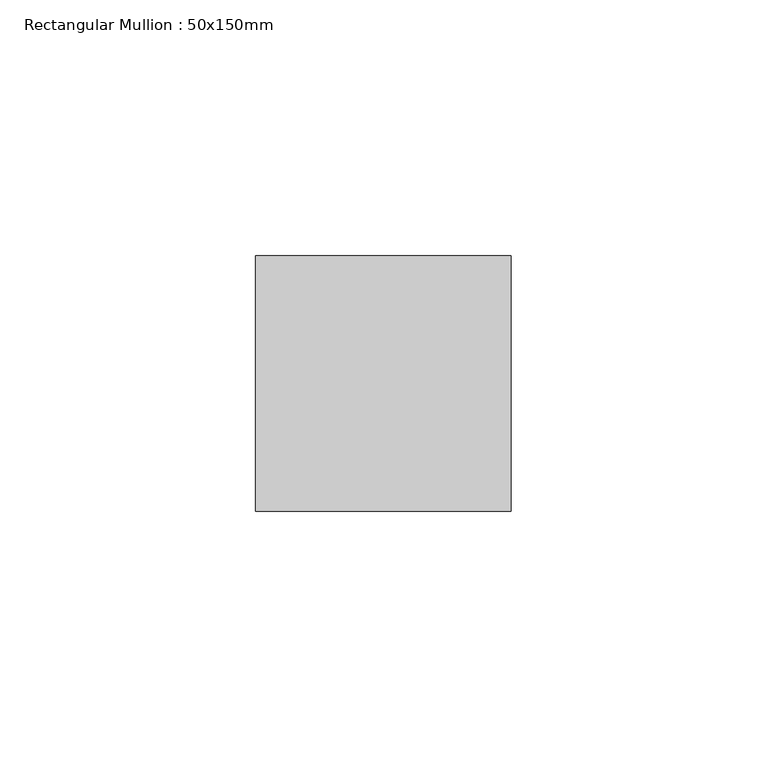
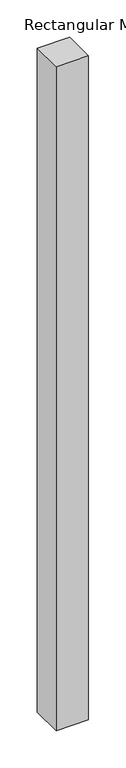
"""IFC4 building model written with IfcOpenShell, lengths in millimetres: member geometry, Rectangular Mullion : 50x150mm."""

from ifc_helpers import new_model, si_unit, frame, origin, place, context, project, spatial, polyline, outline, extrude, source, transform, mapped, element, save


def rectangular_mullion_50x150mm_c4750289(model_context):
    return source(origin(), model_context, "Body", "SweptSolid", [
        extrude(outline(polyline([(25.0, 25.0), (25.0, -25.0), (-25.0, -25.0), (-25.0, 25.0), (25.0, 25.0)])), frame((0.0, 0.0, -1083.4529299), z_axis=(0.0, 0.0, 1.0), x_axis=(1.0, 0.0, 0.0)), (0.0, 0.0, 1.0), 1083.4529299),
    ])


if __name__ == "__main__":
    model = new_model("IFC4")
    model_context = context("Model", 3, world=origin())
    ifc_project = project(units=[si_unit("LENGTHUNIT", "METRE", prefix="MILLI")], contexts=[model_context])
    site = spatial("IfcSite", under=ifc_project)
    building = spatial("IfcBuilding", under=site)
    placement = place(None, origin())
    rectangular_mullion_50x150mm_shape = rectangular_mullion_50x150mm_c4750289(model_context)
    element("IfcMember", 1, ObjectType="Rectangular Mullion : 50x150mm", at=placement, inside=building, context=model_context, shape_type="MappedRepresentation", body=[
        mapped(rectangular_mullion_50x150mm_shape, transform((0.0, 0.0, 0.0), x_axis=(1.0, 0.0, 0.0), y_axis=(0.0, 1.0, 0.0), z_axis=(0.0, 0.0, 1.0))),
    ])
    save(model, "model.ifc")
